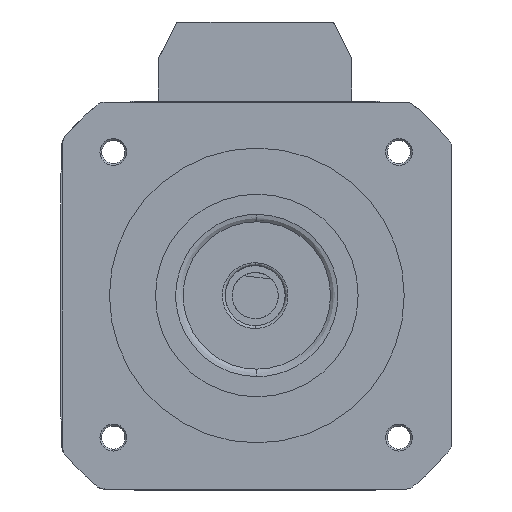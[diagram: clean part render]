
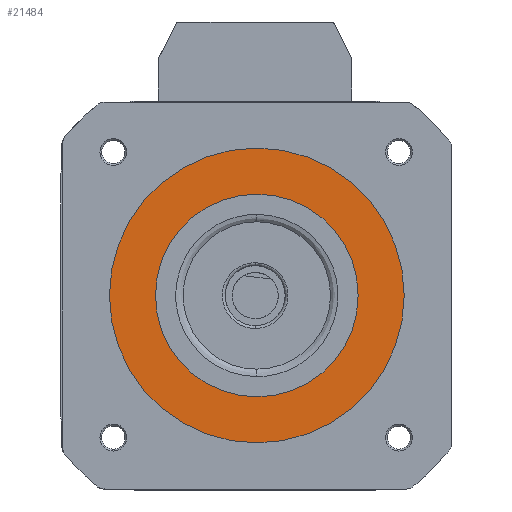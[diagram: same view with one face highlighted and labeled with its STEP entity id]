
A CAD part, front view. The second image highlights one B-rep face of the part: STEP entity #21484.
In plain terms, the highlighted planar face has unit normal (0, -1, 0).
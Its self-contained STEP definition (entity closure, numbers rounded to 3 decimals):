
#421 = EDGE_CURVE ( 'NONE', #3646, #15163, #15634, .T. ) ;
#1261 = CARTESIAN_POINT ( 'NONE',  ( 0., 0.2, 0. ) ) ;
#2207 = VERTEX_POINT ( 'NONE', #23287 ) ;
#3646 = VERTEX_POINT ( 'NONE', #15556 ) ;
#3914 = EDGE_CURVE ( 'NONE', #15163, #3646, #13705, .T. ) ;
#4294 = AXIS2_PLACEMENT_3D ( 'NONE', #1261, #14767, #12894 ) ;
#4433 = VERTEX_POINT ( 'NONE', #19313 ) ;
#4740 = DIRECTION ( 'NONE',  ( 0., 0., -1. ) ) ;
#4827 = CIRCLE ( 'NONE', #8204, 16. ) ;
#6332 = AXIS2_PLACEMENT_3D ( 'NONE', #10587, #18362, #4740 ) ;
#6827 = PLANE ( 'NONE',  #22483 ) ;
#7512 = FACE_OUTER_BOUND ( 'NONE', #8338, .T. ) ;
#7665 = DIRECTION ( 'NONE',  ( 0., -1., 0. ) ) ;
#7728 = ORIENTED_EDGE ( 'NONE', *, *, #421, .T. ) ;
#7934 = ORIENTED_EDGE ( 'NONE', *, *, #19407, .T. ) ;
#8204 = AXIS2_PLACEMENT_3D ( 'NONE', #9534, #15272, #20856 ) ;
#8338 = EDGE_LOOP ( 'NONE', ( #21288, #7934 ) ) ;
#8700 = CARTESIAN_POINT ( 'NONE',  ( 0., 0.2, 0. ) ) ;
#9307 = EDGE_LOOP ( 'NONE', ( #7728, #17322 ) ) ;
#9534 = CARTESIAN_POINT ( 'NONE',  ( 0., 0.2, 0. ) ) ;
#10210 = FACE_BOUND ( 'NONE', #9307, .T. ) ;
#10587 = CARTESIAN_POINT ( 'NONE',  ( 0., 0.2, 0. ) ) ;
#10627 = DIRECTION ( 'NONE',  ( 0., -1., 0. ) ) ;
#11542 = DIRECTION ( 'NONE',  ( 0., 0., -1. ) ) ;
#12894 = DIRECTION ( 'NONE',  ( 0., 0., -1. ) ) ;
#13705 = CIRCLE ( 'NONE', #4294, 11. ) ;
#14767 = DIRECTION ( 'NONE',  ( 0., 1., 0. ) ) ;
#15163 = VERTEX_POINT ( 'NONE', #22985 ) ;
#15272 = DIRECTION ( 'NONE',  ( 0., -1., 0. ) ) ;
#15341 = CARTESIAN_POINT ( 'NONE',  ( 0., 0.2, 0. ) ) ;
#15556 = CARTESIAN_POINT ( 'NONE',  ( 0., 0.2, -11. ) ) ;
#15634 = CIRCLE ( 'NONE', #6332, 11. ) ;
#16145 = EDGE_CURVE ( 'NONE', #2207, #4433, #22199, .T. ) ;
#17322 = ORIENTED_EDGE ( 'NONE', *, *, #3914, .T. ) ;
#18155 = DIRECTION ( 'NONE',  ( 0., 0., -1. ) ) ;
#18362 = DIRECTION ( 'NONE',  ( 0., 1., 0. ) ) ;
#19313 = CARTESIAN_POINT ( 'NONE',  ( 0., 0.2, 16. ) ) ;
#19407 = EDGE_CURVE ( 'NONE', #4433, #2207, #4827, .T. ) ;
#20856 = DIRECTION ( 'NONE',  ( 0., 0., -1. ) ) ;
#21288 = ORIENTED_EDGE ( 'NONE', *, *, #16145, .T. ) ;
#21484 = ADVANCED_FACE ( 'NONE', ( #7512, #10210 ), #6827, .T. ) ;
#22199 = CIRCLE ( 'NONE', #23680, 16. ) ;
#22483 = AXIS2_PLACEMENT_3D ( 'NONE', #8700, #10627, #18155 ) ;
#22985 = CARTESIAN_POINT ( 'NONE',  ( 0., 0.2, 11. ) ) ;
#23287 = CARTESIAN_POINT ( 'NONE',  ( 0., 0.2, -16. ) ) ;
#23680 = AXIS2_PLACEMENT_3D ( 'NONE', #15341, #7665, #11542 ) ;
